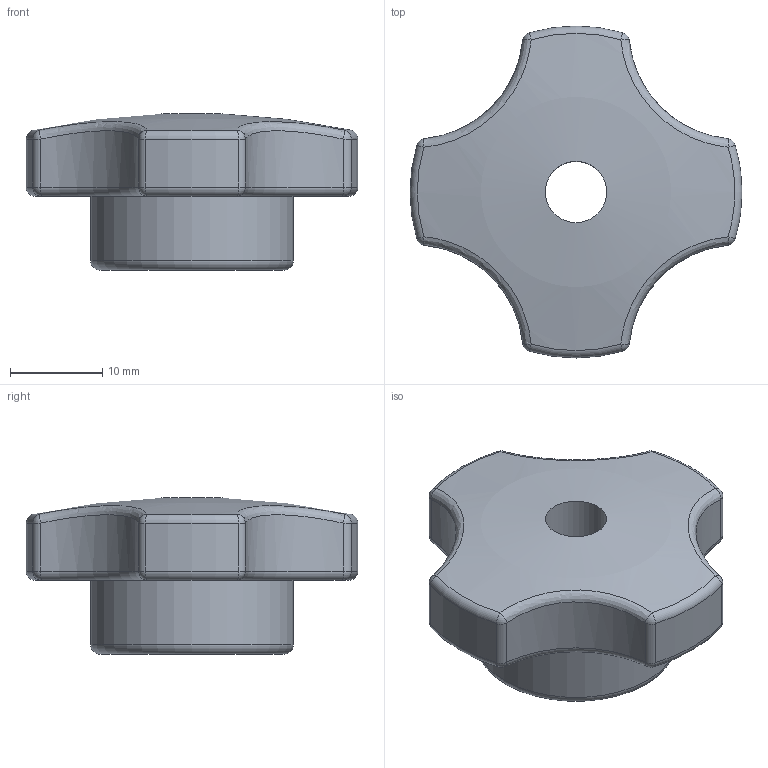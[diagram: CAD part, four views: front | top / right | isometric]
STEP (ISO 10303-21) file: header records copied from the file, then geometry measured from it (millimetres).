
FILE_DESCRIPTION(/* description */ (''),/* implementation_level */ '2;1');
FILE_NAME(/* name */ '\\SYNOLOGYNAS\web\db2\FOKN_M\FOKN-M8\도면\FOKN-M8.stp',/* time_stamp */ '2024-05-01T15:36:46+09:00',/* author */ ('user'),/* organization */ (''),/* preprocessor_version */ 'ST-DEVELOPER v15.6',/* originating_system */ 'Autodesk Inventor 2015',/* authorisation */ '');
FILE_SCHEMA (('AUTOMOTIVE_DESIGN { 1 0 10303 214 3 1 1 }'));
Length unit declared in the file: millimetre
Products named in the file (1): FOKN-M8
Bounding box: 36 x 36 x 16.93 mm (x, y, z)
Volume: 8922.4 mm3; surface area: 3184.1 mm2
Topology: 1 solids, 1 shells, 54 faces, 107 edges, 55 vertices
Faces by surface type: cylinder 18, sphere 17, torus 13, bspline 4, plane 2
Full cylindrical faces by diameter (mm): 6.647 x1, 22 x1
Entity records: 1494 total; most frequent: CARTESIAN_POINT 365, DIRECTION 272, ORIENTED_EDGE 202, AXIS2_PLACEMENT_3D 128, EDGE_CURVE 101, CIRCLE 77, EDGE_LOOP 60, FACE_OUTER_BOUND 54
